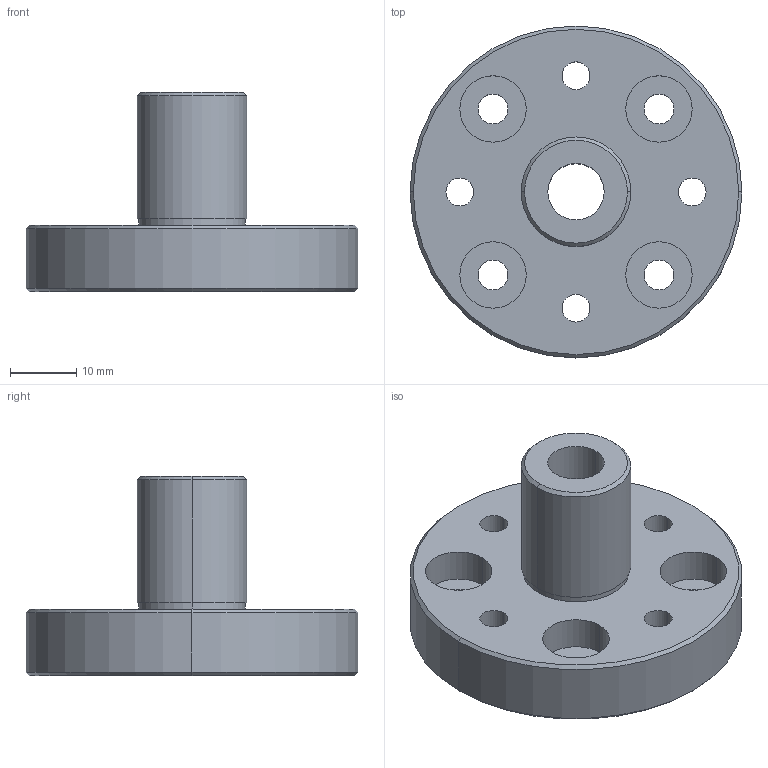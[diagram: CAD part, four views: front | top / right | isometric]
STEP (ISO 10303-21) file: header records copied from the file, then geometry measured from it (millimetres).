
FILE_DESCRIPTION(('CATIA V5 STEP Exchange'),'2;1');
FILE_NAME('D:\姚明阳\1、工装图纸\AGZ101 分体VDC阀压阀杆治具\AGZ101 分体VDC阀压阀杆治具（pdf+stp）\AGZ101.03_V1.stp','2023-08-29T05:12:33+00:00',('none'),('none'),'CATIA Version 5 Release 21 GA (IN-10)','CATIA V5 STEP AP214','none');
FILE_SCHEMA(('AUTOMOTIVE_DESIGN { 1 0 10303 214 1 1 1 1 }'));
Length unit declared in the file: millimetre
Products named in the file (1): AGZ101.03_V1
Bounding box: 50 x 50 x 30 mm (x, y, z)
Volume: 19707.9 mm3; surface area: 8338.7 mm2
Topology: 1 solids, 1 shells, 46 faces, 108 edges, 70 vertices
Faces by surface type: cylinder 32, plane 8, cone 6
Entity records: 1247 total; most frequent: ORIENTED_EDGE 216, CARTESIAN_POINT 206, DIRECTION 162, EDGE_CURVE 108, AXIS2_PLACEMENT_3D 98, CIRCLE 70, EDGE_LOOP 70, VERTEX_POINT 70
